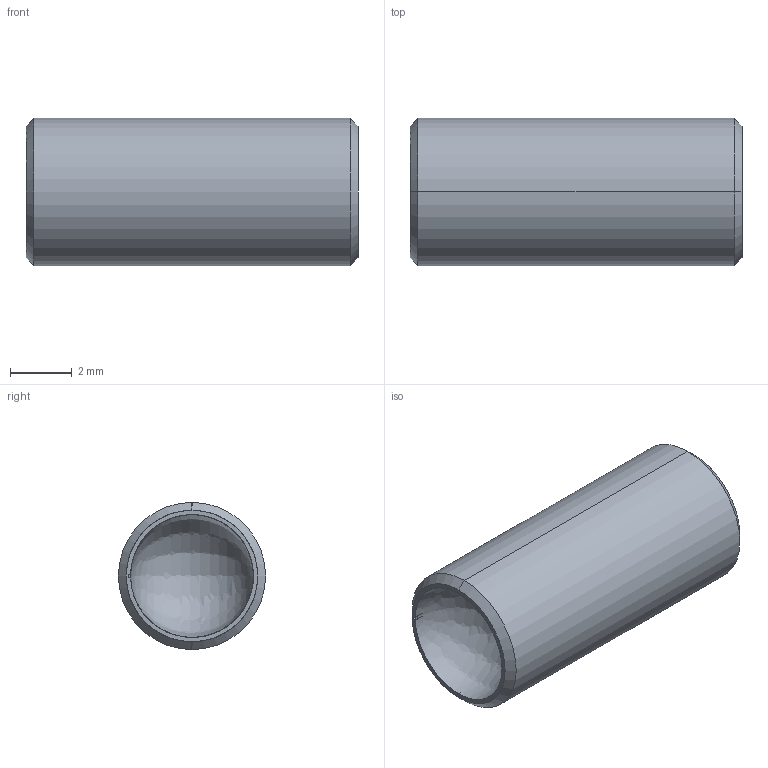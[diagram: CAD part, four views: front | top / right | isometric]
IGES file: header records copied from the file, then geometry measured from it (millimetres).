
Start section: SolidWorks IGES file using analytic representation for surfaces
Global section: file name: C:\Users\workpc\Desktop\KMA Solidworks\TS187-100 Series\TS187-100 High Vacuum\TS187-100-High Vacuum SLDPRT\TS187-100-500-AA-HV.IGS; native system: SolidWorks 2013; preprocessor: SolidWorks 2013; author: workpc; date: 130509.082607; units: inch
Bounding box: 10.72 x 4.75 x 4.75 mm (x, y, z)
Surface area: 283.9 mm2 (no closed solid volume)
Topology: 0 solids, 0 shells, 28 faces, 261 edges, 258 vertices
Faces by surface type: revolution 17, bspline 11
